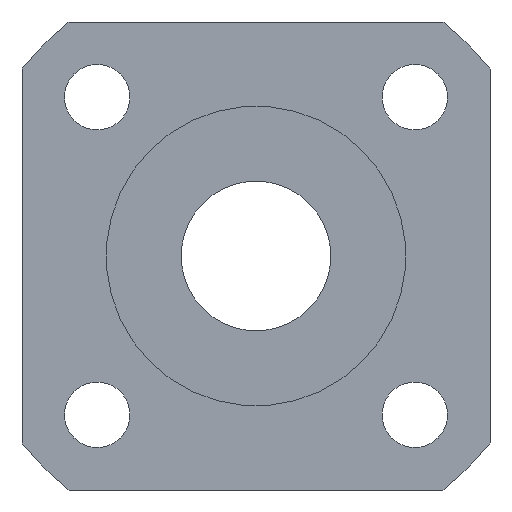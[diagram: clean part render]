
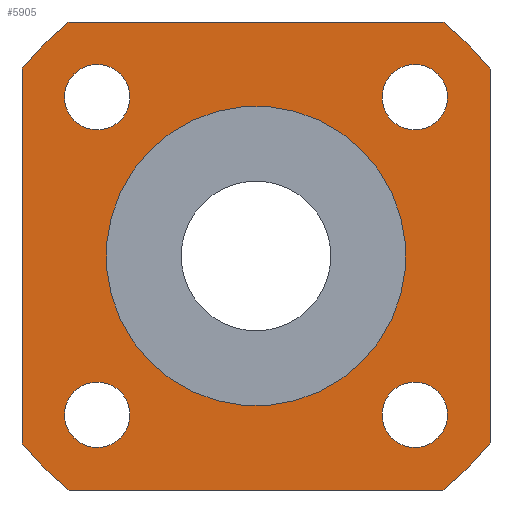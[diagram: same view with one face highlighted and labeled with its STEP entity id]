
A CAD part, left-side view. The second image highlights one B-rep face of the part: STEP entity #5905.
In plain terms, the highlighted planar face has unit normal (-1, 0, 0).
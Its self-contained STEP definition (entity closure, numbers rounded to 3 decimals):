
#110=CIRCLE('',#6264,16.);
#111=CIRCLE('',#6266,16.);
#112=CIRCLE('',#6268,16.);
#122=CIRCLE('',#6283,8.);
#124=CIRCLE('',#6288,16.);
#125=CIRCLE('',#6289,1.75);
#126=CIRCLE('',#6290,1.75);
#127=CIRCLE('',#6291,1.75);
#128=CIRCLE('',#6292,1.75);
#342=LINE('',#9303,#1038);
#343=LINE('',#9304,#1039);
#344=LINE('',#9305,#1040);
#345=LINE('',#9309,#1041);
#1038=VECTOR('',#6851,1000.);
#1039=VECTOR('',#6852,1000.);
#1040=VECTOR('',#6853,1000.);
#1041=VECTOR('',#6856,1000.);
#1816=ORIENTED_EDGE('',*,*,#3518,.T.);
#1817=ORIENTED_EDGE('',*,*,#3501,.F.);
#1818=ORIENTED_EDGE('',*,*,#3519,.T.);
#1819=ORIENTED_EDGE('',*,*,#3504,.F.);
#1820=ORIENTED_EDGE('',*,*,#3520,.T.);
#1821=ORIENTED_EDGE('',*,*,#3521,.F.);
#1822=ORIENTED_EDGE('',*,*,#3522,.T.);
#1823=ORIENTED_EDGE('',*,*,#3499,.F.);
#1824=ORIENTED_EDGE('',*,*,#3523,.T.);
#1825=ORIENTED_EDGE('',*,*,#3524,.T.);
#1826=ORIENTED_EDGE('',*,*,#3525,.T.);
#1827=ORIENTED_EDGE('',*,*,#3526,.T.);
#1828=ORIENTED_EDGE('',*,*,#3516,.T.);
#3499=EDGE_CURVE('',#4352,#4353,#110,.T.);
#3501=EDGE_CURVE('',#4354,#4355,#111,.T.);
#3504=EDGE_CURVE('',#4356,#4357,#112,.T.);
#3516=EDGE_CURVE('',#4367,#4367,#122,.T.);
#3518=EDGE_CURVE('',#4352,#4355,#342,.T.);
#3519=EDGE_CURVE('',#4354,#4357,#343,.T.);
#3520=EDGE_CURVE('',#4356,#4369,#344,.T.);
#3521=EDGE_CURVE('',#4370,#4369,#124,.T.);
#3522=EDGE_CURVE('',#4370,#4353,#345,.T.);
#3523=EDGE_CURVE('',#4371,#4371,#125,.T.);
#3524=EDGE_CURVE('',#4372,#4372,#126,.T.);
#3525=EDGE_CURVE('',#4373,#4373,#127,.T.);
#3526=EDGE_CURVE('',#4374,#4374,#128,.T.);
#4352=VERTEX_POINT('',#9257);
#4353=VERTEX_POINT('',#9259);
#4354=VERTEX_POINT('',#9263);
#4355=VERTEX_POINT('',#9264);
#4356=VERTEX_POINT('',#9269);
#4357=VERTEX_POINT('',#9270);
#4367=VERTEX_POINT('',#9297);
#4369=VERTEX_POINT('',#9306);
#4370=VERTEX_POINT('',#9308);
#4371=VERTEX_POINT('',#9311);
#4372=VERTEX_POINT('',#9313);
#4373=VERTEX_POINT('',#9315);
#4374=VERTEX_POINT('',#9317);
#4850=EDGE_LOOP('',(#1816,#1817,#1818,#1819,#1820,#1821,#1822,#1823));
#4851=EDGE_LOOP('',(#1824));
#4852=EDGE_LOOP('',(#1825));
#4853=EDGE_LOOP('',(#1826));
#4854=EDGE_LOOP('',(#1827));
#4855=EDGE_LOOP('',(#1828));
#5270=FACE_BOUND('',#4850,.T.);
#5271=FACE_BOUND('',#4851,.T.);
#5272=FACE_BOUND('',#4852,.T.);
#5273=FACE_BOUND('',#4853,.T.);
#5274=FACE_BOUND('',#4854,.T.);
#5275=FACE_BOUND('',#4855,.T.);
#5635=PLANE('',#6287);
#5905=ADVANCED_FACE('',(#5270,#5271,#5272,#5273,#5274,#5275),#5635,.F.);
#6264=AXIS2_PLACEMENT_3D('',#9258,#6798,#6799);
#6266=AXIS2_PLACEMENT_3D('',#9262,#6803,#6804);
#6268=AXIS2_PLACEMENT_3D('',#9268,#6809,#6810);
#6283=AXIS2_PLACEMENT_3D('',#9296,#6841,#6842);
#6287=AXIS2_PLACEMENT_3D('',#9302,#6849,#6850);
#6288=AXIS2_PLACEMENT_3D('',#9307,#6854,#6855);
#6289=AXIS2_PLACEMENT_3D('',#9310,#6857,#6858);
#6290=AXIS2_PLACEMENT_3D('',#9312,#6859,#6860);
#6291=AXIS2_PLACEMENT_3D('',#9314,#6861,#6862);
#6292=AXIS2_PLACEMENT_3D('',#9316,#6863,#6864);
#6798=DIRECTION('',(1.,0.,0.));
#6799=DIRECTION('',(0.,0.707,-0.707));
#6803=DIRECTION('',(1.,0.,0.));
#6804=DIRECTION('',(0.,0.707,-0.707));
#6809=DIRECTION('',(1.,0.,0.));
#6810=DIRECTION('',(0.,0.707,-0.707));
#6841=DIRECTION('',(1.,0.,0.));
#6842=DIRECTION('',(0.,0.707,-0.707));
#6849=DIRECTION('',(1.,0.,0.));
#6850=DIRECTION('',(0.,0.707,-0.707));
#6851=DIRECTION('',(0.,0.,1.));
#6852=DIRECTION('',(0.,1.,0.));
#6853=DIRECTION('',(0.,0.,-1.));
#6854=DIRECTION('',(1.,0.,0.));
#6855=DIRECTION('',(0.,0.707,-0.707));
#6856=DIRECTION('',(0.,-1.,0.));
#6857=DIRECTION('',(1.,0.,0.));
#6858=DIRECTION('',(0.,0.707,-0.707));
#6859=DIRECTION('',(1.,0.,0.));
#6860=DIRECTION('',(0.,0.707,-0.707));
#6861=DIRECTION('',(1.,0.,0.));
#6862=DIRECTION('',(0.,0.707,-0.707));
#6863=DIRECTION('',(1.,0.,0.));
#6864=DIRECTION('',(0.,0.707,-0.707));
#9257=CARTESIAN_POINT('',(18.,-12.5,-9.987));
#9258=CARTESIAN_POINT('',(18.,0.,0.));
#9259=CARTESIAN_POINT('',(18.,-9.987,-12.5));
#9262=CARTESIAN_POINT('',(18.,0.,0.));
#9263=CARTESIAN_POINT('',(18.,-9.987,12.5));
#9264=CARTESIAN_POINT('',(18.,-12.5,9.987));
#9268=CARTESIAN_POINT('',(18.,0.,0.));
#9269=CARTESIAN_POINT('',(18.,12.5,9.987));
#9270=CARTESIAN_POINT('',(18.,9.987,12.5));
#9296=CARTESIAN_POINT('',(18.,0.,0.));
#9297=CARTESIAN_POINT('',(18.,5.657,-5.657));
#9302=CARTESIAN_POINT('',(18.,0.,0.));
#9303=CARTESIAN_POINT('',(18.,-12.5,12.5));
#9304=CARTESIAN_POINT('',(18.,12.5,12.5));
#9305=CARTESIAN_POINT('',(18.,12.5,-12.5));
#9306=CARTESIAN_POINT('',(18.,12.5,-9.987));
#9307=CARTESIAN_POINT('',(18.,0.,0.));
#9308=CARTESIAN_POINT('',(18.,9.987,-12.5));
#9309=CARTESIAN_POINT('',(18.,-12.5,-12.5));
#9310=CARTESIAN_POINT('',(18.,8.485,-8.485));
#9311=CARTESIAN_POINT('',(18.,9.723,-9.723));
#9312=CARTESIAN_POINT('',(18.,-8.485,-8.485));
#9313=CARTESIAN_POINT('',(18.,-7.248,-9.723));
#9314=CARTESIAN_POINT('',(18.,-8.485,8.485));
#9315=CARTESIAN_POINT('',(18.,-7.248,7.248));
#9316=CARTESIAN_POINT('',(18.,8.485,8.485));
#9317=CARTESIAN_POINT('',(18.,9.723,7.248));
